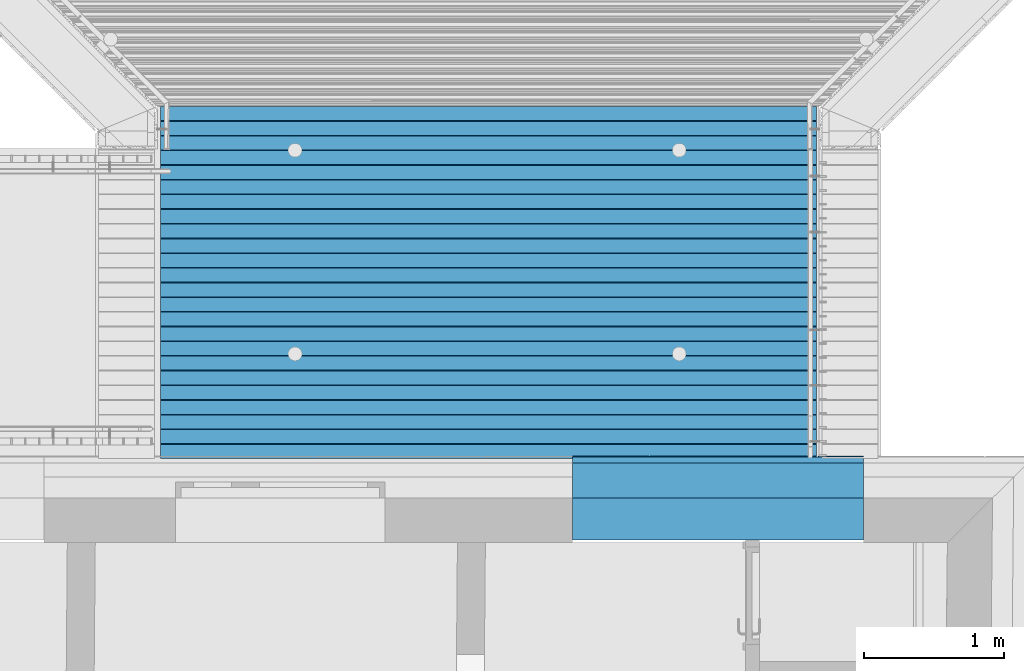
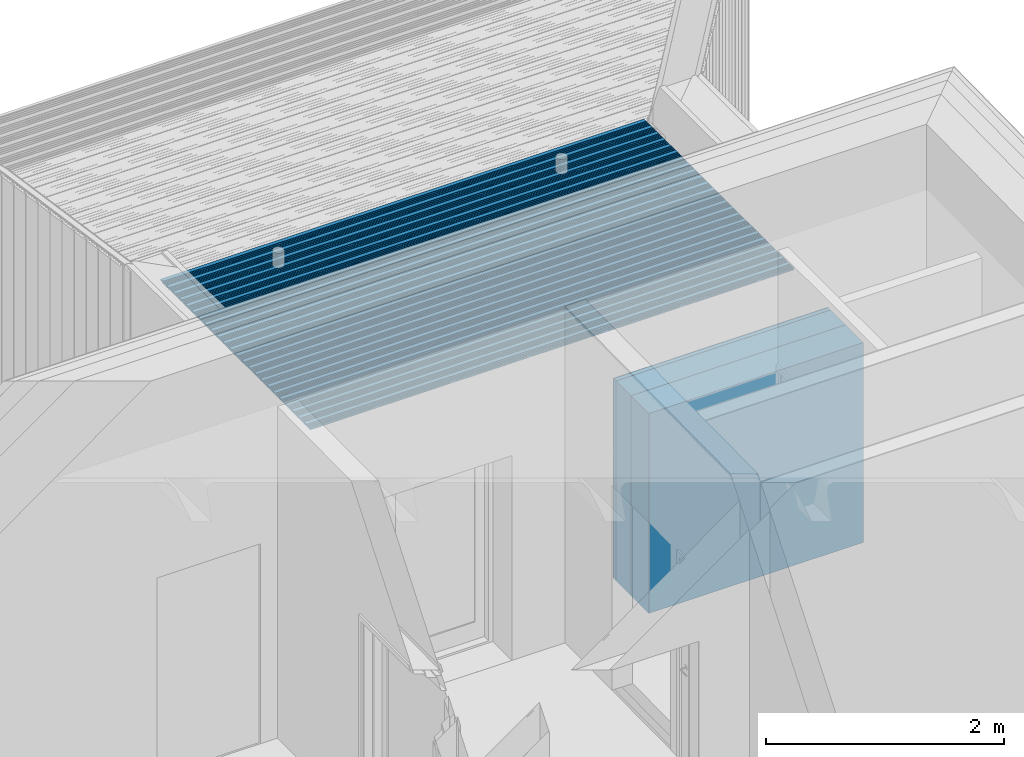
# One storey, part 54 of 418: 28 building element parts, 4 openings, 2 elements without a shape of their own.
"""IFC2X3 building model written with IfcOpenShell, lengths in millimetres."""

import ifcopenshell
import ifcopenshell.guid

model = None  # the IFC model being written
_history = None  # IfcOwnerHistory: only IFC2X3 demands one
_inside = {}  # id of a spatial element -> (the spatial element, [elements in it])
_under = {}  # id of a project, library or spatial element -> (it, [spatial elements below it])
_declared = {}  # id of a project -> (the project, [libraries it declares])
_typed = {}  # id of a type object -> (the type object, [elements of that type])
_made_of = {}  # id of a material, layer set ... -> (it, [elements and type objects made of it])


def new_model(schema):
    """Start an empty IFC model of exactly this schema.

    Asked for "IFC4X3", IfcOpenShell would pick the latest addendum, in which some entities
    have other attributes; the version numbers below select the first issue.
    IFC2X3 requires an IfcOwnerHistory on every rooted entity: one is made here for all.
    """
    global model, _history
    if schema == "IFC4X3":
        model = ifcopenshell.file(schema_version=(4, 3, 0, 0))
    else:
        model = ifcopenshell.file(schema=schema)
    _inside.clear()
    _under.clear()
    _declared.clear()
    _typed.clear()
    _made_of.clear()
    _history = None
    if model.schema == "IFC2X3":
        org = make("IfcOrganization", Name="unknown")
        user = make(
            "IfcPersonAndOrganization",
            ThePerson=make("IfcPerson", FamilyName="unknown"),
            TheOrganization=org,
        )
        app = make(
            "IfcApplication",
            ApplicationDeveloper=org,
            Version="unknown",
            ApplicationFullName="unknown",
            ApplicationIdentifier="unknown",
        )
        _history = make(
            "IfcOwnerHistory",
            OwningUser=user,
            OwningApplication=app,
            ChangeAction="ADDED",
            CreationDate=0,
        )
    return model


def make(cls, **values):
    """One entity of the class cls with the attributes given. An attribute that is None is left unset."""
    return model.create_entity(
        cls, **{name: value for name, value in values.items() if value is not None}
    )


def entity(cls, *values):
    """Any entity or typed value of the class cls, its attributes in the order of the schema. None: left unset."""
    e = model.create_entity(cls)
    for i, value in enumerate(values):
        if value is not None:
            e[i] = value
    return e


def rooted(cls, **values):
    """An entity with a GlobalId (a new one), such as an element, a storey or a relation."""
    return make(cls, GlobalId=ifcopenshell.guid.new(), OwnerHistory=_history, **values)


def si_unit(unit_type, name, prefix=None):
    """IfcSIUnit, for example si_unit("LENGTHUNIT", "METRE", prefix="MILLI")."""
    return make("IfcSIUnit", UnitType=unit_type, Prefix=prefix, Name=name)


def converted_unit(unit_type, name, factor, base, dimensions=None, offset=None):
    """IfcConversionBasedUnit, such as the inch: factor (a typed value) times the base unit."""
    return make(
        "IfcConversionBasedUnit"
        if offset is None
        else "IfcConversionBasedUnitWithOffset",
        ConversionOffset=offset,
        Dimensions=None
        if dimensions is None
        else entity("IfcDimensionalExponents", *dimensions),
        UnitType=unit_type,
        Name=name,
        ConversionFactor=make(
            "IfcMeasureWithUnit", ValueComponent=factor, UnitComponent=base
        ),
    )


def derived_unit(unit_type, elements):
    """IfcDerivedUnit: a product of units, each with its exponent."""
    return make(
        "IfcDerivedUnit",
        Elements=[
            make("IfcDerivedUnitElement", Unit=unit, Exponent=power)
            for unit, power in elements
        ],
        UnitType=unit_type,
    )


def money_unit(currency):
    """IfcMonetaryUnit."""
    return make("IfcMonetaryUnit", Currency=currency)


def assignment(units):
    """IfcUnitAssignment: the units of a project."""
    return None if units is None else make("IfcUnitAssignment", Units=units)


def point(xyz):
    """IfcCartesianPoint."""
    return None if xyz is None else make("IfcCartesianPoint", Coordinates=xyz)


def direction(xyz):
    """IfcDirection."""
    return None if xyz is None else make("IfcDirection", DirectionRatios=xyz)


def frame(location, z_axis=None, x_axis=None):
    """IfcAxis2Placement3D, a coordinate frame: its origin and axes. An axis left out is left unset."""
    return make(
        "IfcAxis2Placement3D",
        Location=point(location),
        Axis=direction(z_axis),
        RefDirection=direction(x_axis),
    )


def origin_with_axes():
    """The frame at (0, 0, 0) with the z axis (0, 0, 1) and the x axis (1, 0, 0) written out."""
    return frame((0.0, 0.0, 0.0), z_axis=(0.0, 0.0, 1.0), x_axis=(1.0, 0.0, 0.0))


def place(relative_to, where):
    """IfcLocalPlacement: puts the frame where relative to a parent placement (None: the world)."""
    return make(
        "IfcLocalPlacement", PlacementRelTo=relative_to, RelativePlacement=where
    )


def context(
    kind, dimensions, precision=None, world=None, true_north=None, identifier=None
):
    """IfcGeometricRepresentationContext, for example the 3D "Model" context."""
    return make(
        "IfcGeometricRepresentationContext",
        ContextIdentifier=identifier,
        ContextType=kind,
        CoordinateSpaceDimension=dimensions,
        Precision=precision,
        WorldCoordinateSystem=world,
        TrueNorth=true_north,
    )


def subcontext(parent, identifier, kind, view, scale=None):
    """IfcGeometricRepresentationSubContext, for example "Body" below "Model"."""
    return make(
        "IfcGeometricRepresentationSubContext",
        ContextIdentifier=identifier,
        ContextType=kind,
        ParentContext=parent,
        TargetScale=scale,
        TargetView=view,
    )


def project(units=None, contexts=None):
    """IfcProject with its units and contexts."""
    return rooted(
        "IfcProject",
        Name="project",
        RepresentationContexts=contexts,
        UnitsInContext=assignment(units),
    )


def spatial(cls, under=None, at=None, **own):
    """A site, building, storey or space (cls), placed at a placement, below another one or the project."""
    s = rooted(cls, ObjectPlacement=at, **own)
    if under is not None:
        _under.setdefault(under.id(), (under, []))[1].append(s)
    return s


def polyline(points):
    """IfcPolyline through the points."""
    return make("IfcPolyline", Points=[point(p) for p in points])


def outline(outer, holes=None, kind="AREA"):
    """IfcArbitraryClosedProfileDef: a profile drawn as a closed curve; with holes, ...WithVoids."""
    if holes is None:
        return make("IfcArbitraryClosedProfileDef", ProfileType=kind, OuterCurve=outer)
    return make(
        "IfcArbitraryProfileDefWithVoids",
        ProfileType=kind,
        OuterCurve=outer,
        InnerCurves=holes,
    )


def extrude(swept, where, along, depth):
    """IfcExtrudedAreaSolid: the profile swept, set in the frame where, extruded along a direction by depth."""
    return make(
        "IfcExtrudedAreaSolid",
        SweptArea=swept,
        Position=where,
        ExtrudedDirection=direction(along),
        Depth=depth,
    )


def shape(context_of_items, identifier, shape_type, items):
    """IfcShapeRepresentation: the items that make up one representation, for example the "Body"."""
    return make(
        "IfcShapeRepresentation",
        ContextOfItems=context_of_items,
        RepresentationIdentifier=identifier,
        RepresentationType=shape_type,
        Items=items,
    )


def material(Name=None, Category=None):
    """IfcMaterial."""
    return make("IfcMaterial", Name=Name, Category=Category)


def made_of(thing, what):
    """Note that an element or type object is made of a material, layer set ...; save() writes the relation."""
    if what is not None:
        _made_of.setdefault(what.id(), (what, []))[1].append(thing)
    return thing


def type_object(cls, material=None, **own):
    """A type object (cls), such as IfcWallType, which elements share."""
    return made_of(rooted(cls, **own), material)


def element(
    cls,
    number,
    at=None,
    inside=None,
    cuts=None,
    type_object=None,
    material=None,
    context=None,
    identifier="Body",
    shape_type=None,
    held_by="IfcProductDefinitionShape",
    body=None,
    shapes=None,
    **own,
):
    """One element of the class cls, such as IfcWall. Its Tag is "e" and its number.

    at: its placement. inside: the storey or other place that contains it. cuts: it is an
    opening in that element (IfcRelVoidsElement). A single representation is given by context,
    identifier, shape_type and body (its items); several are given by shapes. held_by: the class
    of the entity that holds the representations. save() writes the other relations.
    """
    e = rooted(cls, Tag="e%d" % number, ObjectPlacement=at, **own)
    if body is not None:
        shapes = [shape(context, identifier, shape_type, body)]
    if shapes is not None:
        e.Representation = make(held_by, Representations=shapes)
    if inside is not None:
        _inside.setdefault(inside.id(), (inside, []))[1].append(e)
    if cuts is not None:
        rooted(
            "IfcRelVoidsElement", RelatingBuildingElement=cuts, RelatedOpeningElement=e
        )
    if type_object is not None:
        _typed.setdefault(type_object.id(), (type_object, []))[1].append(e)
    return made_of(e, material)


def aggregate(whole, parts):
    """IfcRelAggregates: a whole, such as a stair, and the parts it consists of."""
    return rooted("IfcRelAggregates", RelatingObject=whole, RelatedObjects=parts)


def save(model, path):
    """Write the relations noted so far, then the file.

    IfcRelAggregates (storeys below a building ...), IfcRelContainedInSpatialStructure (elements
    in a storey), IfcRelDefinesByType, IfcRelAssociatesMaterial and IfcRelDeclares: one each for
    every whole, place, type object, material and project.
    """
    for whole, parts in _under.values():
        aggregate(whole, parts)
    for where, things in _inside.values():
        rooted(
            "IfcRelContainedInSpatialStructure",
            RelatedElements=things,
            RelatingStructure=where,
        )
    for kind, things in _typed.values():
        rooted("IfcRelDefinesByType", RelatedObjects=things, RelatingType=kind)
    for what, things in _made_of.values():
        rooted("IfcRelAssociatesMaterial", RelatedObjects=things, RelatingMaterial=what)
    for by, libraries in _declared.values():
        rooted("IfcRelDeclares", RelatingContext=by, RelatedDefinitions=libraries)
    model.write(path)


model = new_model("IFC2X3")

# Units and contexts
model_context = context("Model", 3, precision=0.01, world=origin_with_axes(), true_north=direction((0.0, 1.0)))
body_context = subcontext(model_context, "Body", "Model", "MODEL_VIEW")
ifc_project = project(units=[si_unit("LENGTHUNIT", "METRE", prefix="MILLI"), si_unit("AREAUNIT", "SQUARE_METRE"), si_unit("VOLUMEUNIT", "CUBIC_METRE"), converted_unit("PLANEANGLEUNIT", "DEGREE", entity("IfcPlaneAngleMeasure", 0.0174532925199), si_unit("PLANEANGLEUNIT", "RADIAN"), dimensions=[0, 0, 0, 0, 0, 0, 0]), si_unit("SOLIDANGLEUNIT", "STERADIAN"), money_unit("EUR"), converted_unit("TIMEUNIT", "Year", entity("IfcTimeMeasure", 31556926.0), si_unit("TIMEUNIT", "SECOND"), dimensions=[0, 0, 1, 0, 0, 0, 0]), si_unit("MASSUNIT", "GRAM", prefix="KILO"), si_unit("THERMODYNAMICTEMPERATUREUNIT", "DEGREE_CELSIUS"), si_unit("LUMINOUSINTENSITYUNIT", "LUMEN"), si_unit("ENERGYUNIT", "JOULE", prefix="MEGA"), derived_unit("THERMALCONDUCTANCEUNIT", [(si_unit("POWERUNIT", "WATT"), 1), (si_unit("LENGTHUNIT", "METRE"), -1), (si_unit("THERMODYNAMICTEMPERATUREUNIT", "KELVIN"), -1)]), derived_unit("SPECIFICHEATCAPACITYUNIT", [(si_unit("ENERGYUNIT", "JOULE"), 1), (si_unit("MASSUNIT", "GRAM", prefix="KILO"), -1), (si_unit("THERMODYNAMICTEMPERATUREUNIT", "KELVIN"), -1)]), derived_unit("MASSDENSITYUNIT", [(si_unit("MASSUNIT", "GRAM", prefix="KILO"), 1), (si_unit("VOLUMEUNIT", "CUBIC_METRE"), -1)])], contexts=[model_context])

# Site, building, storey
site_placement = place(None, origin_with_axes())
site = spatial("IfcSite", under=ifc_project, at=site_placement, Name="Paldiski mnt 245/1, Tallinn, Harjumaa", CompositionType="COMPLEX")
building_placement = place(site_placement, origin_with_axes())
building = spatial("IfcBuilding", under=site, at=building_placement, Name="RKAS Hoone üldnimetus (kasutust iseloomustav) -> IFC Project Manager -> SOLIBRI", CompositionType="ELEMENT")
storey_placement = place(building_placement, origin_with_axes())
storey = spatial("IfcBuildingStorey", under=building, at=storey_placement, Name="Esimene korrus", CompositionType="ELEMENT", Elevation=0.0)

# Wall, openings, building element parts
wall_type = type_object("IfcWallType", Name="VS-06 600", PredefinedType="NOTDEFINED")
wall_placement = place(storey_placement, frame((-50009.1209096, 35789.8287244, 0.0), z_axis=(0.0, 0.0, 1.0), x_axis=(1.0, 0.0, 0.0)))
wall = element("IfcWall", 1, at=wall_placement, inside=storey, type_object=wall_type, Name="VS-06")
opening_1_placement = place(wall_placement, frame((549.813583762, 0.0, 0.0), z_axis=(0.0, 0.0, 1.0), x_axis=(1.0, 0.0, 0.0)))
element("IfcOpeningElement", 2, at=opening_1_placement, cuts=wall, Name="Cembrit fassaadiplaadi vuuk", context=body_context, shape_type="SweptSolid", body=[
    extrude(outline(polyline([(-4.0, 0.0), (4.0, 0.0), (4.0, 4090.0), (-4.0, 4090.0), (-4.0, 0.0)])), frame((0.0, 592.0, 0.0), z_axis=(0.0, -1.0, 0.0), x_axis=(1.0, 0.0, 0.0)), (0.0, 0.0, -1.0), 608.0),
])
opening_2_placement = place(wall_placement, frame((1749.81358376, 0.0, 0.0), z_axis=(0.0, 0.0, 1.0), x_axis=(1.0, 0.0, 0.0)))
element("IfcOpeningElement", 3, at=opening_2_placement, cuts=wall, Name="Cembrit fassaadiplaadi vuuk", context=body_context, shape_type="SweptSolid", body=[
    extrude(outline(polyline([(-4.0, 0.0), (4.0, 0.0), (4.0, 4090.0), (-4.0, 4090.0), (-4.0, 0.0)])), frame((0.0, 592.0, 0.0), z_axis=(0.0, -1.0, 0.0), x_axis=(1.0, 0.0, 0.0)), (0.0, 0.0, -1.0), 608.0),
])
opening_3_placement = place(wall_placement, frame((2949.81358376, 0.0, 0.0), z_axis=(0.0, 0.0, 1.0), x_axis=(1.0, 0.0, 0.0)))
element("IfcOpeningElement", 4, at=opening_3_placement, cuts=wall, Name="Cembrit fassaadiplaadi vuuk", context=body_context, shape_type="SweptSolid", body=[
    extrude(outline(polyline([(-4.0, 0.0), (4.0, 0.0), (4.0, 4090.0), (-4.0, 4090.0), (-4.0, 0.0)])), frame((0.0, 592.0, 0.0), z_axis=(0.0, -1.0, 0.0), x_axis=(1.0, 0.0, 0.0)), (0.0, 0.0, -1.0), 608.0),
])
opening_4_placement = place(wall_placement, frame((1040.0, 0.0, 1298.0), z_axis=(0.0, 0.0, 1.0), x_axis=(1.0, 0.0, 0.0)))
element("IfcOpeningElement", 5, at=opening_4_placement, cuts=wall, Name="Cembrit fassaadiplaadi vuuk", context=body_context, shape_type="SweptSolid", body=[
    extrude(outline(polyline([(-1040.0, 0.0), (1040.0, 0.0), (1040.0, 8.0), (-1040.0, 8.0), (-1040.0, 0.0)])), frame((0.0, 592.0, 0.0), z_axis=(0.0, -1.0, 0.0), x_axis=(1.0, 0.0, 0.0)), (0.0, 0.0, -1.0), 608.0),
])
ifc_material_1 = material(Name="BAUROC CLASSIC 3 MPa kergplokk")
building_element_part_1_placement = place(wall_placement, origin_with_axes())
building_element_part_1 = element("IfcBuildingElementPart", 6, at=building_element_part_1_placement, material=ifc_material_1, Name="BAUROC CLASSIC 3 MPa kergplokk", context=body_context, shape_type="SweptSolid", body=[
    extrude(outline(polyline([(0.0, 0.0), (2080.0, 0.0), (2080.0, 300.0), (0.0, 300.0), (0.0, 0.0)])), origin_with_axes(), (0.0, 0.0, 1.0), 2050.0),
])
ifc_material_2 = material(Name="Kingspan Kooltherm")
building_element_part_2_placement = place(wall_placement, origin_with_axes())
building_element_part_2 = element("IfcBuildingElementPart", 7, at=building_element_part_2_placement, material=ifc_material_2, Name="Kingspan Kooltherm", context=body_context, shape_type="SweptSolid", body=[
    extrude(outline(polyline([(0.0, 300.0), (2080.0, 300.0), (2080.0, 550.0), (0.0, 550.0), (0.0, 300.0)])), origin_with_axes(), (0.0, 0.0, 1.0), 2050.0),
])
ifc_material_3 = material(Name="VKR-06_Õhkvahe")
building_element_part_3_placement = place(wall_placement, origin_with_axes())
building_element_part_3 = element("IfcBuildingElementPart", 8, at=building_element_part_3_placement, material=ifc_material_3, Name="VKR-06_Õhkvahe", context=body_context, shape_type="SweptSolid", body=[
    extrude(outline(polyline([(0.0, 550.0), (2080.0, 550.0), (2080.0, 592.0), (0.0, 592.0), (0.0, 550.0)])), origin_with_axes(), (0.0, 0.0, 1.0), 2050.0),
])
ifc_material_4 = material(Name="Cembrit_C040")
building_element_part_4_placement = place(wall_placement, origin_with_axes())
building_element_part_4 = element("IfcBuildingElementPart", 9, at=building_element_part_4_placement, material=ifc_material_4, Name="Cembrit_C040", context=body_context, shape_type="SweptSolid", body=[
    extrude(outline(polyline([(0.0, 592.0), (2080.0, 592.0), (2080.0, 600.0), (0.0, 600.0), (0.0, 592.0)])), origin_with_axes(), (0.0, 0.0, 1.0), 2050.0),
])
aggregate(wall, [building_element_part_1, building_element_part_2, building_element_part_3, building_element_part_4])

# Proxy, building element parts
building_element_proxy_type = type_object("IfcBuildingElementProxyType", Name="Varikatus_taga_ lagi laudis_01 2517 x 21", PredefinedType="NOTDEFINED")
proxy_placement = place(storey_placement, frame((-52955.8168787, 38888.0018189, 2581.10177239), z_axis=(0.0, 0.0, 1.0), x_axis=(1.0, 0.0, 0.0)))
proxy = element("IfcBuildingElementProxy", 10, at=proxy_placement, inside=storey, type_object=building_element_proxy_type, Name="Varikatus")
ifc_material_5 = material(Name="Laudis 5072 Honka 45 horisontaalne raastas")
building_element_part_5_placement = place(proxy_placement, origin_with_axes())
building_element_part_5 = element("IfcBuildingElementPart", 11, at=building_element_part_5_placement, material=ifc_material_5, Name="Laudis 5072 Honka 45 horisontaalne raastas", context=body_context, shape_type="SweptSolid", body=[
    extrude(outline(polyline([(2414.99999964, 2.58733083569e-07), (2414.99999964, -10.4999998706), (2434.99999989, -10.4999983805), (2434.99999989, -20.9999999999), (2517.00000088, -20.9999999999), (2517.00000088, -10.9999998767), (2515.00000088, -10.9999998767), (2514.99999939, 2.58733083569e-07), (2500.42381248, 2.58733083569e-07), (2500.42381248, -6.99999833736), (2494.78314382, -6.99999982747), (2494.78314233, 2.58733083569e-07), (2479.95465021, 2.58733083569e-07), (2479.95465021, -6.99999982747), (2473.82771, -6.99999982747), (2473.82771, 2.58733083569e-07), (2458.88859304, 2.58733083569e-07), (2458.88859304, -6.99999982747), (2452.52609504, -6.99999982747), (2452.52609504, 2.58733083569e-07), (2414.99999964, 2.58733083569e-07)])), frame((0.0, 0.0, 0.0), z_axis=(-1.0, 0.0, 0.0), x_axis=(0.0, -1.0, 0.0)), (0.0, 0.0, -1.0), 4690.0),
])
building_element_part_6_placement = place(proxy_placement, origin_with_axes())
building_element_part_6 = element("IfcBuildingElementPart", 12, at=building_element_part_6_placement, material=ifc_material_5, Name="Laudis 5072 Honka 45 horisontaalne raastas", context=body_context, shape_type="SweptSolid", body=[
    extrude(outline(polyline([(2330.00000009, -20.9999999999), (2429.99999978, -20.9999999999), (2430.00000023, -11.0000004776), (2410.00000065, -10.999999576), (2409.99999969, 1.61840318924e-07), (2395.42381261, 5.23588283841e-07), (2395.42381237, -6.99999898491), (2389.78314396, -6.9999996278), (2389.78314298, 8.8337337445e-07), (2374.95465062, -3.56301654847e-08), (2374.95465038, -6.99999954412), (2368.82770974, -6.99999997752), (2368.82770998, -4.69023930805e-07), (2353.8885928, -3.47776918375e-07), (2353.88859257, -6.99999985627), (2347.52609551, -6.99999955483), (2347.52609452, 9.56349666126e-07), (2310.0, 0.0), (2309.99999964, -10.4999992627), (2330.00000023, -10.499998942), (2330.00000009, -20.9999999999)])), frame((0.0, 0.0, 0.0), z_axis=(-1.0, 0.0, 0.0), x_axis=(0.0, -1.0, 0.0)), (0.0, 0.0, -1.0), 4690.0),
])
building_element_part_7_placement = place(proxy_placement, origin_with_axes())
building_element_part_7 = element("IfcBuildingElementPart", 13, at=building_element_part_7_placement, material=ifc_material_5, Name="Laudis 5072 Honka 45 horisontaalne raastas", context=body_context, shape_type="SweptSolid", body=[
    extrude(outline(polyline([(2225.00000009, -20.9999999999), (2324.99999978, -20.9999999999), (2325.00000023, -11.0000004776), (2305.00000065, -10.999999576), (2304.99999969, 1.61840318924e-07), (2290.42381261, 5.23588283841e-07), (2290.42381237, -6.99999898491), (2284.78314396, -6.9999996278), (2284.78314298, 8.8337337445e-07), (2269.95465062, -3.56301654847e-08), (2269.95465038, -6.99999954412), (2263.82770974, -6.99999997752), (2263.82770998, -4.69023930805e-07), (2248.8885928, -3.47776918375e-07), (2248.88859257, -6.99999985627), (2242.52609551, -6.99999955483), (2242.52609452, 9.56349666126e-07), (2205.0, 0.0), (2204.99999964, -10.4999992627), (2225.00000023, -10.499998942), (2225.00000009, -20.9999999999)])), frame((0.0, 0.0, 0.0), z_axis=(-1.0, 0.0, 0.0), x_axis=(0.0, -1.0, 0.0)), (0.0, 0.0, -1.0), 4690.0),
])
building_element_part_8_placement = place(proxy_placement, origin_with_axes())
building_element_part_8 = element("IfcBuildingElementPart", 14, at=building_element_part_8_placement, material=ifc_material_5, Name="Laudis 5072 Honka 45 horisontaalne raastas", context=body_context, shape_type="SweptSolid", body=[
    extrude(outline(polyline([(2120.00000009, -20.9999999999), (2219.99999978, -20.9999999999), (2220.00000023, -11.0000004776), (2200.00000065, -10.999999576), (2199.99999969, 1.61840318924e-07), (2185.42381261, 5.23588283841e-07), (2185.42381237, -6.99999898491), (2179.78314396, -6.9999996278), (2179.78314298, 8.8337337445e-07), (2164.95465062, -3.56301654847e-08), (2164.95465038, -6.99999954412), (2158.82770974, -6.99999997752), (2158.82770998, -4.69023930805e-07), (2143.8885928, -3.47776918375e-07), (2143.88859257, -6.99999985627), (2137.52609551, -6.99999955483), (2137.52609452, 9.56349666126e-07), (2100.0, 0.0), (2099.99999964, -10.4999992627), (2120.00000023, -10.499998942), (2120.00000009, -20.9999999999)])), frame((0.0, 0.0, 0.0), z_axis=(-1.0, 0.0, 0.0), x_axis=(0.0, -1.0, 0.0)), (0.0, 0.0, -1.0), 4690.0),
])
building_element_part_9_placement = place(proxy_placement, origin_with_axes())
building_element_part_9 = element("IfcBuildingElementPart", 15, at=building_element_part_9_placement, material=ifc_material_5, Name="Laudis 5072 Honka 45 horisontaalne raastas", context=body_context, shape_type="SweptSolid", body=[
    extrude(outline(polyline([(2015.00000009, -20.9999999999), (2114.99999978, -20.9999999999), (2115.00000023, -11.0000004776), (2095.00000065, -10.999999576), (2094.99999969, 1.61840318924e-07), (2080.42381261, 5.23588283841e-07), (2080.42381237, -6.99999898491), (2074.78314396, -6.9999996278), (2074.78314298, 8.8337337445e-07), (2059.95465062, -3.56301654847e-08), (2059.95465038, -6.99999954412), (2053.82770974, -6.99999997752), (2053.82770998, -4.69023930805e-07), (2038.8885928, -3.47776918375e-07), (2038.88859257, -6.99999985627), (2032.52609551, -6.99999955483), (2032.52609452, 9.56349666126e-07), (1995.0, 0.0), (1994.99999964, -10.4999992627), (2015.00000023, -10.499998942), (2015.00000009, -20.9999999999)])), frame((0.0, 0.0, 0.0), z_axis=(-1.0, 0.0, 0.0), x_axis=(0.0, -1.0, 0.0)), (0.0, 0.0, -1.0), 4690.0),
])
building_element_part_10_placement = place(proxy_placement, origin_with_axes())
building_element_part_10 = element("IfcBuildingElementPart", 16, at=building_element_part_10_placement, material=ifc_material_5, Name="Laudis 5072 Honka 45 horisontaalne raastas", context=body_context, shape_type="SweptSolid", body=[
    extrude(outline(polyline([(1910.00000009, -20.9999999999), (2009.99999978, -20.9999999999), (2010.00000023, -11.0000004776), (1990.00000065, -10.999999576), (1989.99999969, 1.61840318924e-07), (1975.42381261, 5.23588283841e-07), (1975.42381237, -6.99999898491), (1969.78314396, -6.9999996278), (1969.78314298, 8.8337337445e-07), (1954.95465062, -3.56301654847e-08), (1954.95465038, -6.99999954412), (1948.82770974, -6.99999997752), (1948.82770998, -4.69023930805e-07), (1933.8885928, -3.47776918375e-07), (1933.88859257, -6.99999985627), (1927.52609551, -6.99999955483), (1927.52609452, 9.56349666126e-07), (1890.0, 0.0), (1889.99999964, -10.4999992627), (1910.00000023, -10.499998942), (1910.00000009, -20.9999999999)])), frame((0.0, 0.0, 0.0), z_axis=(-1.0, 0.0, 0.0), x_axis=(0.0, -1.0, 0.0)), (0.0, 0.0, -1.0), 4690.0),
])
building_element_part_11_placement = place(proxy_placement, origin_with_axes())
building_element_part_11 = element("IfcBuildingElementPart", 17, at=building_element_part_11_placement, material=ifc_material_5, Name="Laudis 5072 Honka 45 horisontaalne raastas", context=body_context, shape_type="SweptSolid", body=[
    extrude(outline(polyline([(1805.00000009, -20.9999999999), (1904.99999978, -20.9999999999), (1905.00000023, -11.0000004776), (1885.00000065, -10.999999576), (1884.99999969, 1.61840318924e-07), (1870.42381261, 5.23588283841e-07), (1870.42381237, -6.99999898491), (1864.78314396, -6.9999996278), (1864.78314298, 8.8337337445e-07), (1849.95465062, -3.56301654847e-08), (1849.95465038, -6.99999954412), (1843.82770974, -6.99999997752), (1843.82770998, -4.69023930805e-07), (1828.8885928, -3.47776918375e-07), (1828.88859257, -6.99999985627), (1822.52609551, -6.99999955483), (1822.52609452, 9.56349666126e-07), (1785.0, 0.0), (1784.99999964, -10.4999992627), (1805.00000023, -10.499998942), (1805.00000009, -20.9999999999)])), frame((0.0, 0.0, 0.0), z_axis=(-1.0, 0.0, 0.0), x_axis=(0.0, -1.0, 0.0)), (0.0, 0.0, -1.0), 4690.0),
])
building_element_part_12_placement = place(proxy_placement, origin_with_axes())
building_element_part_12 = element("IfcBuildingElementPart", 18, at=building_element_part_12_placement, material=ifc_material_5, Name="Laudis 5072 Honka 45 horisontaalne raastas", context=body_context, shape_type="SweptSolid", body=[
    extrude(outline(polyline([(1700.00000009, -20.9999999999), (1799.99999978, -20.9999999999), (1800.00000023, -11.0000004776), (1780.00000065, -10.999999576), (1779.99999969, 1.61840318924e-07), (1765.42381261, 5.23588283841e-07), (1765.42381237, -6.99999898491), (1759.78314396, -6.9999996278), (1759.78314298, 8.8337337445e-07), (1744.95465062, -3.56301654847e-08), (1744.95465038, -6.99999954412), (1738.82770974, -6.99999997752), (1738.82770998, -4.69023930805e-07), (1723.8885928, -3.47776918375e-07), (1723.88859257, -6.99999985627), (1717.52609551, -6.99999955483), (1717.52609452, 9.56349666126e-07), (1680.0, 0.0), (1679.99999964, -10.4999992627), (1700.00000023, -10.499998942), (1700.00000009, -20.9999999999)])), frame((0.0, 0.0, 0.0), z_axis=(-1.0, 0.0, 0.0), x_axis=(0.0, -1.0, 0.0)), (0.0, 0.0, -1.0), 4690.0),
])
building_element_part_13_placement = place(proxy_placement, origin_with_axes())
building_element_part_13 = element("IfcBuildingElementPart", 19, at=building_element_part_13_placement, material=ifc_material_5, Name="Laudis 5072 Honka 45 horisontaalne raastas", context=body_context, shape_type="SweptSolid", body=[
    extrude(outline(polyline([(1595.00000009, -20.9999999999), (1694.99999978, -20.9999999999), (1695.00000023, -11.0000004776), (1675.00000065, -10.999999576), (1674.99999969, 1.61840318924e-07), (1660.42381261, 5.23588283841e-07), (1660.42381237, -6.99999898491), (1654.78314396, -6.9999996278), (1654.78314298, 8.8337337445e-07), (1639.95465062, -3.56301654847e-08), (1639.95465038, -6.99999954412), (1633.82770974, -6.99999997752), (1633.82770998, -4.69023930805e-07), (1618.8885928, -3.47776918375e-07), (1618.88859257, -6.99999985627), (1612.52609551, -6.99999955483), (1612.52609452, 9.56349666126e-07), (1575.0, 0.0), (1574.99999964, -10.4999992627), (1595.00000023, -10.499998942), (1595.00000009, -20.9999999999)])), frame((0.0, 0.0, 0.0), z_axis=(-1.0, 0.0, 0.0), x_axis=(0.0, -1.0, 0.0)), (0.0, 0.0, -1.0), 4690.0),
])
building_element_part_14_placement = place(proxy_placement, origin_with_axes())
building_element_part_14 = element("IfcBuildingElementPart", 20, at=building_element_part_14_placement, material=ifc_material_5, Name="Laudis 5072 Honka 45 horisontaalne raastas", context=body_context, shape_type="SweptSolid", body=[
    extrude(outline(polyline([(1490.00000009, -20.9999999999), (1589.99999978, -20.9999999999), (1590.00000023, -11.0000004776), (1570.00000065, -10.999999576), (1569.99999969, 1.61840318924e-07), (1555.42381261, 5.23588283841e-07), (1555.42381237, -6.99999898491), (1549.78314396, -6.9999996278), (1549.78314298, 8.8337337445e-07), (1534.95465062, -3.56301654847e-08), (1534.95465038, -6.99999954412), (1528.82770974, -6.99999997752), (1528.82770998, -4.69023930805e-07), (1513.8885928, -3.47776918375e-07), (1513.88859257, -6.99999985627), (1507.52609551, -6.99999955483), (1507.52609452, 9.56349666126e-07), (1470.0, 0.0), (1469.99999964, -10.4999992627), (1490.00000023, -10.499998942), (1490.00000009, -20.9999999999)])), frame((0.0, 0.0, 0.0), z_axis=(-1.0, 0.0, 0.0), x_axis=(0.0, -1.0, 0.0)), (0.0, 0.0, -1.0), 4690.0),
])
building_element_part_15_placement = place(proxy_placement, origin_with_axes())
building_element_part_15 = element("IfcBuildingElementPart", 21, at=building_element_part_15_placement, material=ifc_material_5, Name="Laudis 5072 Honka 45 horisontaalne raastas", context=body_context, shape_type="SweptSolid", body=[
    extrude(outline(polyline([(1385.00000009, -20.9999999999), (1484.99999978, -20.9999999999), (1485.00000023, -11.0000004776), (1465.00000065, -10.999999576), (1464.99999969, 1.61840318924e-07), (1450.42381261, 5.23588283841e-07), (1450.42381237, -6.99999898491), (1444.78314396, -6.9999996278), (1444.78314298, 8.8337337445e-07), (1429.95465062, -3.56301654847e-08), (1429.95465038, -6.99999954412), (1423.82770974, -6.99999997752), (1423.82770998, -4.69023930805e-07), (1408.8885928, -3.47776918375e-07), (1408.88859257, -6.99999985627), (1402.52609551, -6.99999955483), (1402.52609452, 9.56349666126e-07), (1365.0, 0.0), (1364.99999964, -10.4999992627), (1385.00000023, -10.499998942), (1385.00000009, -20.9999999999)])), frame((0.0, 0.0, 0.0), z_axis=(-1.0, 0.0, 0.0), x_axis=(0.0, -1.0, 0.0)), (0.0, 0.0, -1.0), 4690.0),
])
building_element_part_16_placement = place(proxy_placement, origin_with_axes())
building_element_part_16 = element("IfcBuildingElementPart", 22, at=building_element_part_16_placement, material=ifc_material_5, Name="Laudis 5072 Honka 45 horisontaalne raastas", context=body_context, shape_type="SweptSolid", body=[
    extrude(outline(polyline([(1280.00000009, -20.9999999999), (1379.99999978, -20.9999999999), (1380.00000023, -11.0000004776), (1360.00000065, -10.999999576), (1359.99999969, 1.61840318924e-07), (1345.42381261, 5.23588283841e-07), (1345.42381237, -6.99999898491), (1339.78314396, -6.9999996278), (1339.78314298, 8.8337337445e-07), (1324.95465062, -3.56301654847e-08), (1324.95465038, -6.99999954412), (1318.82770974, -6.99999997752), (1318.82770998, -4.69023930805e-07), (1303.8885928, -3.47776918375e-07), (1303.88859257, -6.99999985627), (1297.52609551, -6.99999955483), (1297.52609452, 9.56349666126e-07), (1260.0, 0.0), (1259.99999964, -10.4999992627), (1280.00000023, -10.499998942), (1280.00000009, -20.9999999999)])), frame((0.0, 0.0, 0.0), z_axis=(-1.0, 0.0, 0.0), x_axis=(0.0, -1.0, 0.0)), (0.0, 0.0, -1.0), 4690.0),
])
building_element_part_17_placement = place(proxy_placement, origin_with_axes())
building_element_part_17 = element("IfcBuildingElementPart", 23, at=building_element_part_17_placement, material=ifc_material_5, Name="Laudis 5072 Honka 45 horisontaalne raastas", context=body_context, shape_type="SweptSolid", body=[
    extrude(outline(polyline([(1175.00000009, -20.9999999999), (1274.99999978, -20.9999999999), (1275.00000023, -11.0000004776), (1255.00000065, -10.999999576), (1254.99999969, 1.61840318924e-07), (1240.42381261, 5.23588283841e-07), (1240.42381237, -6.99999898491), (1234.78314396, -6.9999996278), (1234.78314298, 8.8337337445e-07), (1219.95465062, -3.56301654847e-08), (1219.95465038, -6.99999954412), (1213.82770974, -6.99999997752), (1213.82770998, -4.69023930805e-07), (1198.8885928, -3.47776918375e-07), (1198.88859257, -6.99999985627), (1192.52609551, -6.99999955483), (1192.52609452, 9.56349666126e-07), (1155.0, 0.0), (1154.99999964, -10.4999992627), (1175.00000023, -10.499998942), (1175.00000009, -20.9999999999)])), frame((0.0, 0.0, 0.0), z_axis=(-1.0, 0.0, 0.0), x_axis=(0.0, -1.0, 0.0)), (0.0, 0.0, -1.0), 4690.0),
])
building_element_part_18_placement = place(proxy_placement, origin_with_axes())
building_element_part_18 = element("IfcBuildingElementPart", 24, at=building_element_part_18_placement, material=ifc_material_5, Name="Laudis 5072 Honka 45 horisontaalne raastas", context=body_context, shape_type="SweptSolid", body=[
    extrude(outline(polyline([(1070.00000009, -20.9999999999), (1169.99999978, -20.9999999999), (1170.00000023, -11.0000004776), (1150.00000065, -10.999999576), (1149.99999969, 1.61840318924e-07), (1135.42381261, 5.23588283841e-07), (1135.42381237, -6.99999898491), (1129.78314396, -6.9999996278), (1129.78314298, 8.8337337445e-07), (1114.95465062, -3.56301654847e-08), (1114.95465038, -6.99999954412), (1108.82770974, -6.99999997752), (1108.82770998, -4.69023930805e-07), (1093.8885928, -3.47776918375e-07), (1093.88859257, -6.99999985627), (1087.52609551, -6.99999955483), (1087.52609452, 9.56349666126e-07), (1050.0, 0.0), (1049.99999964, -10.4999992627), (1070.00000023, -10.499998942), (1070.00000009, -20.9999999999)])), frame((0.0, 0.0, 0.0), z_axis=(-1.0, 0.0, 0.0), x_axis=(0.0, -1.0, 0.0)), (0.0, 0.0, -1.0), 4690.0),
])
building_element_part_19_placement = place(proxy_placement, origin_with_axes())
building_element_part_19 = element("IfcBuildingElementPart", 25, at=building_element_part_19_placement, material=ifc_material_5, Name="Laudis 5072 Honka 45 horisontaalne raastas", context=body_context, shape_type="SweptSolid", body=[
    extrude(outline(polyline([(965.000000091, -20.9999999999), (1064.99999978, -20.9999999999), (1065.00000023, -11.0000004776), (1045.00000065, -10.999999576), (1044.99999969, 1.61840318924e-07), (1030.42381261, 5.23588283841e-07), (1030.42381237, -6.99999898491), (1024.78314396, -6.9999996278), (1024.78314298, 8.8337337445e-07), (1009.95465062, -3.56301654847e-08), (1009.95465038, -6.99999954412), (1003.82770974, -6.99999997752), (1003.82770998, -4.69023930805e-07), (988.888592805, -3.47776918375e-07), (988.888592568, -6.99999985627), (982.526095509, -6.99999955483), (982.526094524, 9.56349666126e-07), (945.0, 0.0), (944.999999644, -10.4999992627), (965.000000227, -10.499998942), (965.000000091, -20.9999999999)])), frame((0.0, 0.0, 0.0), z_axis=(-1.0, 0.0, 0.0), x_axis=(0.0, -1.0, 0.0)), (0.0, 0.0, -1.0), 4690.0),
])
building_element_part_20_placement = place(proxy_placement, origin_with_axes())
building_element_part_20 = element("IfcBuildingElementPart", 26, at=building_element_part_20_placement, material=ifc_material_5, Name="Laudis 5072 Honka 45 horisontaalne raastas", context=body_context, shape_type="SweptSolid", body=[
    extrude(outline(polyline([(860.000000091, -20.9999999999), (959.99999978, -20.9999999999), (960.000000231, -11.0000004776), (940.00000065, -10.999999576), (939.999999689, 1.61840318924e-07), (925.423812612, 5.23588283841e-07), (925.423812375, -6.99999898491), (919.783143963, -6.9999996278), (919.783142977, 8.8337337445e-07), (904.954650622, -3.56301654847e-08), (904.954650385, -6.99999954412), (898.827709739, -6.99999997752), (898.827709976, -4.69023930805e-07), (883.888592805, -3.47776918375e-07), (883.888592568, -6.99999985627), (877.526095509, -6.99999955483), (877.526094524, 9.56349666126e-07), (840.0, 0.0), (839.999999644, -10.4999992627), (860.000000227, -10.499998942), (860.000000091, -20.9999999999)])), frame((0.0, 0.0, 0.0), z_axis=(-1.0, 0.0, 0.0), x_axis=(0.0, -1.0, 0.0)), (0.0, 0.0, -1.0), 4690.0),
])
building_element_part_21_placement = place(proxy_placement, origin_with_axes())
building_element_part_21 = element("IfcBuildingElementPart", 27, at=building_element_part_21_placement, material=ifc_material_5, Name="Laudis 5072 Honka 45 horisontaalne raastas", context=body_context, shape_type="SweptSolid", body=[
    extrude(outline(polyline([(755.000000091, -20.9999999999), (854.99999978, -20.9999999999), (855.000000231, -11.0000004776), (835.00000065, -10.999999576), (834.999999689, 1.61840318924e-07), (820.423812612, 5.23588283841e-07), (820.423812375, -6.99999898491), (814.783143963, -6.9999996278), (814.783142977, 8.8337337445e-07), (799.954650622, -3.56301654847e-08), (799.954650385, -6.99999954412), (793.827709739, -6.99999997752), (793.827709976, -4.69023930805e-07), (778.888592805, -3.47776918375e-07), (778.888592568, -6.99999985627), (772.526095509, -6.99999955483), (772.526094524, 9.56349666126e-07), (735.0, 0.0), (734.999999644, -10.4999992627), (755.000000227, -10.499998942), (755.000000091, -20.9999999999)])), frame((0.0, 0.0, 0.0), z_axis=(-1.0, 0.0, 0.0), x_axis=(0.0, -1.0, 0.0)), (0.0, 0.0, -1.0), 4690.0),
])
building_element_part_22_placement = place(proxy_placement, origin_with_axes())
building_element_part_22 = element("IfcBuildingElementPart", 28, at=building_element_part_22_placement, material=ifc_material_5, Name="Laudis 5072 Honka 45 horisontaalne raastas", context=body_context, shape_type="SweptSolid", body=[
    extrude(outline(polyline([(650.000000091, -20.9999999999), (749.99999978, -20.9999999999), (750.000000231, -11.0000004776), (730.00000065, -10.999999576), (729.999999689, 1.61840318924e-07), (715.423812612, 5.23588283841e-07), (715.423812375, -6.99999898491), (709.783143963, -6.9999996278), (709.783142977, 8.8337337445e-07), (694.954650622, -3.56301654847e-08), (694.954650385, -6.99999954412), (688.827709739, -6.99999997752), (688.827709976, -4.69023930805e-07), (673.888592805, -3.47776918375e-07), (673.888592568, -6.99999985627), (667.526095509, -6.99999955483), (667.526094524, 9.56349666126e-07), (630.0, 0.0), (629.999999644, -10.4999992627), (650.000000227, -10.499998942), (650.000000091, -20.9999999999)])), frame((0.0, 0.0, 0.0), z_axis=(-1.0, 0.0, 0.0), x_axis=(0.0, -1.0, 0.0)), (0.0, 0.0, -1.0), 4690.0),
])
building_element_part_23_placement = place(proxy_placement, origin_with_axes())
building_element_part_23 = element("IfcBuildingElementPart", 29, at=building_element_part_23_placement, material=ifc_material_5, Name="Laudis 5072 Honka 45 horisontaalne raastas", context=body_context, shape_type="SweptSolid", body=[
    extrude(outline(polyline([(545.000000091, -20.9999999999), (644.99999978, -20.9999999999), (645.000000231, -11.0000004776), (625.00000065, -10.999999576), (624.999999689, 1.61840318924e-07), (610.423812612, 5.23588283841e-07), (610.423812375, -6.99999898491), (604.783143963, -6.9999996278), (604.783142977, 8.8337337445e-07), (589.954650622, -3.56301654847e-08), (589.954650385, -6.99999954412), (583.827709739, -6.99999997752), (583.827709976, -4.69023930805e-07), (568.888592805, -3.47776918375e-07), (568.888592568, -6.99999985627), (562.526095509, -6.99999955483), (562.526094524, 9.56349666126e-07), (525.0, 0.0), (524.999999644, -10.4999992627), (545.000000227, -10.499998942), (545.000000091, -20.9999999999)])), frame((0.0, 0.0, 0.0), z_axis=(-1.0, 0.0, 0.0), x_axis=(0.0, -1.0, 0.0)), (0.0, 0.0, -1.0), 4690.0),
])
building_element_part_24_placement = place(proxy_placement, origin_with_axes())
building_element_part_24 = element("IfcBuildingElementPart", 30, at=building_element_part_24_placement, material=ifc_material_5, Name="Laudis 5072 Honka 45 horisontaalne raastas", context=body_context, shape_type="SweptSolid", body=[
    extrude(outline(polyline([(440.000000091, -20.9999999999), (539.99999978, -20.9999999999), (540.000000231, -11.0000004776), (520.00000065, -10.999999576), (519.999999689, 1.61840318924e-07), (505.423812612, 5.23588283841e-07), (505.423812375, -6.99999898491), (499.783143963, -6.9999996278), (499.783142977, 8.8337337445e-07), (484.954650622, -3.56301654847e-08), (484.954650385, -6.99999954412), (478.827709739, -6.99999997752), (478.827709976, -4.69023930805e-07), (463.888592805, -3.47776918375e-07), (463.888592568, -6.99999985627), (457.526095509, -6.99999955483), (457.526094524, 9.56349666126e-07), (420.0, 0.0), (419.999999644, -10.4999992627), (440.000000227, -10.499998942), (440.000000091, -20.9999999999)])), frame((0.0, 0.0, 0.0), z_axis=(-1.0, 0.0, 0.0), x_axis=(0.0, -1.0, 0.0)), (0.0, 0.0, -1.0), 4690.0),
])
building_element_part_25_placement = place(proxy_placement, origin_with_axes())
building_element_part_25 = element("IfcBuildingElementPart", 31, at=building_element_part_25_placement, material=ifc_material_5, Name="Laudis 5072 Honka 45 horisontaalne raastas", context=body_context, shape_type="SweptSolid", body=[
    extrude(outline(polyline([(335.000000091, -20.9999999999), (434.99999978, -20.9999999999), (435.000000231, -11.0000004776), (415.00000065, -10.999999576), (414.999999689, 1.61840318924e-07), (400.423812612, 5.23588283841e-07), (400.423812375, -6.99999898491), (394.783143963, -6.9999996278), (394.783142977, 8.8337337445e-07), (379.954650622, -3.56301654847e-08), (379.954650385, -6.99999954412), (373.827709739, -6.99999997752), (373.827709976, -4.69023930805e-07), (358.888592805, -3.47776918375e-07), (358.888592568, -6.99999985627), (352.526095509, -6.99999955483), (352.526094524, 9.56349666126e-07), (315.0, 0.0), (314.999999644, -10.4999992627), (335.000000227, -10.499998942), (335.000000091, -20.9999999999)])), frame((0.0, 0.0, 0.0), z_axis=(-1.0, 0.0, 0.0), x_axis=(0.0, -1.0, 0.0)), (0.0, 0.0, -1.0), 4690.0),
])
building_element_part_26_placement = place(proxy_placement, origin_with_axes())
building_element_part_26 = element("IfcBuildingElementPart", 32, at=building_element_part_26_placement, material=ifc_material_5, Name="Laudis 5072 Honka 45 horisontaalne raastas", context=body_context, shape_type="SweptSolid", body=[
    extrude(outline(polyline([(230.000000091, -20.9999999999), (329.99999978, -20.9999999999), (330.000000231, -11.0000004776), (310.00000065, -10.999999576), (309.999999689, 1.61840318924e-07), (295.423812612, 5.23588283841e-07), (295.423812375, -6.99999898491), (289.783143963, -6.9999996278), (289.783142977, 8.8337337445e-07), (274.954650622, -3.56301654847e-08), (274.954650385, -6.99999954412), (268.827709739, -6.99999997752), (268.827709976, -4.69023930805e-07), (253.888592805, -3.47776918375e-07), (253.888592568, -6.99999985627), (247.526095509, -6.99999955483), (247.526094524, 9.56349666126e-07), (210.0, 0.0), (209.999999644, -10.4999992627), (230.000000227, -10.499998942), (230.000000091, -20.9999999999)])), frame((0.0, 0.0, 0.0), z_axis=(-1.0, 0.0, 0.0), x_axis=(0.0, -1.0, 0.0)), (0.0, 0.0, -1.0), 4690.0),
])
building_element_part_27_placement = place(proxy_placement, origin_with_axes())
building_element_part_27 = element("IfcBuildingElementPart", 33, at=building_element_part_27_placement, material=ifc_material_5, Name="Laudis 5072 Honka 45 horisontaalne raastas", context=body_context, shape_type="SweptSolid", body=[
    extrude(outline(polyline([(125.000000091, -20.9999999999), (224.99999978, -20.9999999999), (225.000000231, -11.0000004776), (205.00000065, -10.999999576), (204.999999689, 1.61840318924e-07), (190.423812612, 5.23588283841e-07), (190.423812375, -6.99999898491), (184.783143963, -6.9999996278), (184.783142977, 8.8337337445e-07), (169.954650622, -3.56301654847e-08), (169.954650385, -6.99999954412), (163.827709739, -6.99999997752), (163.827709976, -4.69023930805e-07), (148.888592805, -3.47776918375e-07), (148.888592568, -6.99999985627), (142.526095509, -6.99999955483), (142.526094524, 9.56349666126e-07), (105.0, 0.0), (104.999999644, -10.4999992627), (125.000000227, -10.499998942), (125.000000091, -20.9999999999)])), frame((0.0, 0.0, 0.0), z_axis=(-1.0, 0.0, 0.0), x_axis=(0.0, -1.0, 0.0)), (0.0, 0.0, -1.0), 4690.0),
])
building_element_part_28_placement = place(proxy_placement, origin_with_axes())
building_element_part_28 = element("IfcBuildingElementPart", 34, at=building_element_part_28_placement, material=ifc_material_5, Name="Laudis 5072 Honka 45 horisontaalne raastas", context=body_context, shape_type="SweptSolid", body=[
    extrude(outline(polyline([(20.0000000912, -20.9999999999), (119.99999978, -20.9999999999), (120.000000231, -11.0000004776), (100.00000065, -10.999999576), (99.9999996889, 1.61840318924e-07), (85.4238126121, 5.23588283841e-07), (85.4238123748, -6.99999898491), (79.7831439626, -6.9999996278), (79.7831429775, 8.8337337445e-07), (64.9546506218, -3.56301654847e-08), (64.9546503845, -6.99999954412), (58.8277097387, -6.99999997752), (58.8277099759, -4.69023930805e-07), (43.8885928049, -3.47776918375e-07), (43.8885925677, -6.99999985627), (37.5260955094, -6.99999955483), (37.5260945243, 9.56349666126e-07), (0.0, 0.0), (-3.55868223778e-07, -10.4999992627), (20.0000002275, -10.499998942), (20.0000000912, -20.9999999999)])), frame((0.0, 0.0, 0.0), z_axis=(-1.0, 0.0, 0.0), x_axis=(0.0, -1.0, 0.0)), (0.0, 0.0, -1.0), 4690.0),
])
aggregate(proxy, [building_element_part_5, building_element_part_6, building_element_part_7, building_element_part_8, building_element_part_9, building_element_part_10, building_element_part_11, building_element_part_12, building_element_part_13, building_element_part_14, building_element_part_15, building_element_part_16, building_element_part_17, building_element_part_18, building_element_part_19, building_element_part_20, building_element_part_21, building_element_part_22, building_element_part_23, building_element_part_24, building_element_part_25, building_element_part_26, building_element_part_27, building_element_part_28])

save(model, "model.ifc")
